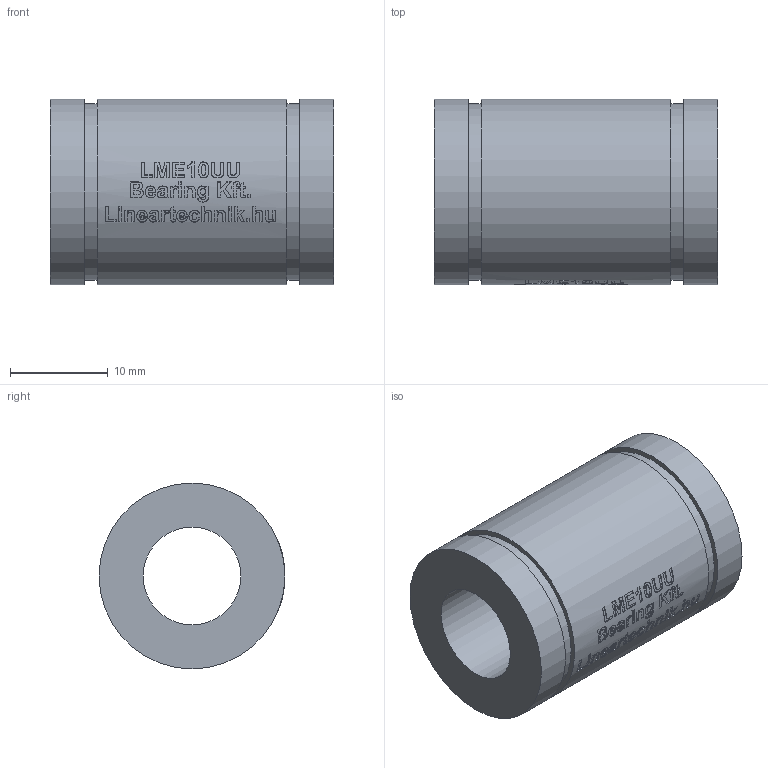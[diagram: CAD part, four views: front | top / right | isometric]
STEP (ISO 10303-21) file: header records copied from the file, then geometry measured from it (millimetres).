
FILE_DESCRIPTION(/* description */ (''),/* implementation_level */ '2;1');
FILE_NAME(/* name */ 'LME10UU',/* time_stamp */ '2019-05-17T10:32:56+02:00',/* author */ ('VĂ©gh MĂˇtĂ©'),/* organization */ ('Bearing Kft'),/* preprocessor_version */ 'ST-DEVELOPER v16.7',/* originating_system */ 'DEX',/* authorisation */ $);
FILE_SCHEMA (('AUTOMOTIVE_DESIGN {1 0 10303 214 3 1 1}'));
Length unit declared in the file: millimetre
Products named in the file (1): LME10UU
Bounding box: 29 x 19 x 19 mm (x, y, z)
Volume: 5866.4 mm3; surface area: 3180.7 mm2
Topology: 1 solids, 1 shells, 312 faces, 782 edges, 522 vertices
Faces by surface type: plane 168, bspline 92, cylinder 52
Full cylindrical faces by diameter (mm): 10 x1, 18 x2, 19 x3
Entity records: 15474 total; most frequent: CARTESIAN_POINT 8483, ORIENTED_EDGE 1542, DIRECTION 1179, EDGE_CURVE 771, VERTEX_POINT 520, LINE 429, VECTOR 429, AXIS2_PLACEMENT_3D 375
